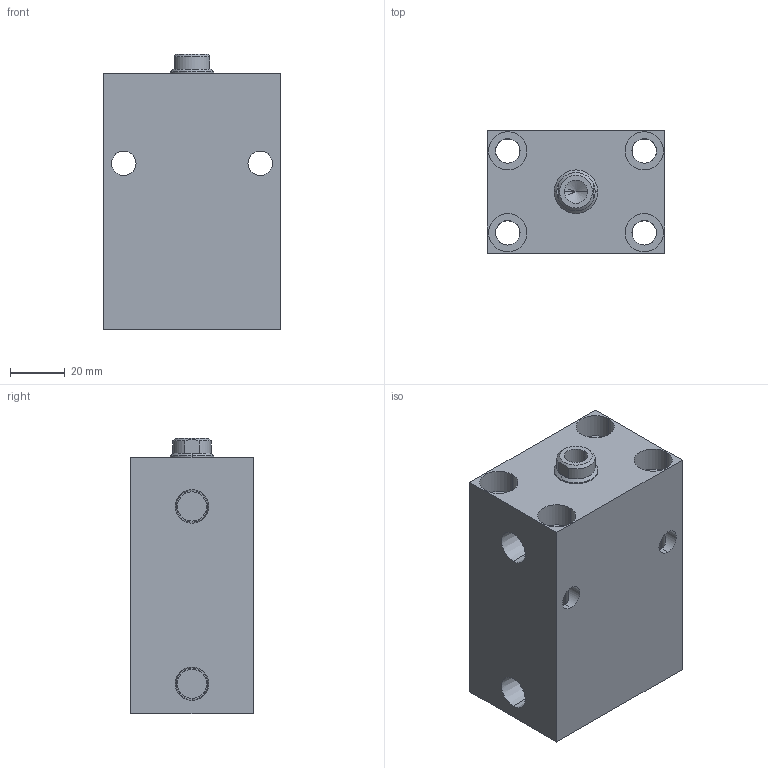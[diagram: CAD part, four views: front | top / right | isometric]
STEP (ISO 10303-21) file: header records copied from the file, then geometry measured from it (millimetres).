
FILE_DESCRIPTION (( 'STEP AP203' ), '1' );
FILE_NAME ('HBC-25D-50N.STEP', '2019-11-29T08:53:53', ( '微软用户' ), ( '微软中国' ), 'SwSTEP 2.0', 'SolidWorks 2012', '' );
FILE_SCHEMA (( 'CONFIG_CONTROL_DESIGN' ));
Length unit declared in the file: millimetre
Products named in the file (3): HBC-25D-50N掛极; HBC-25D-50N活塞杆; HBC-25D-50N
Assembly tree (2 placements, depth 2):
  HBC-25D-50N
    HBC-25D-50N掛极
    HBC-25D-50N活塞杆
Bounding box: 65 x 45 x 101 mm (x, y, z)
Volume: 226501.9 mm3; surface area: 52421 mm2
Topology: 2 solids, 2 shells, 85 faces, 202 edges, 123 vertices
Faces by surface type: cylinder 52, plane 23, cone 10
Entity records: 2785 total; most frequent: CARTESIAN_POINT 525, DIRECTION 430, ORIENTED_EDGE 400, EDGE_CURVE 200, AXIS2_PLACEMENT_3D 176, VERTEX_POINT 123, EDGE_LOOP 109, CIRCLE 86
